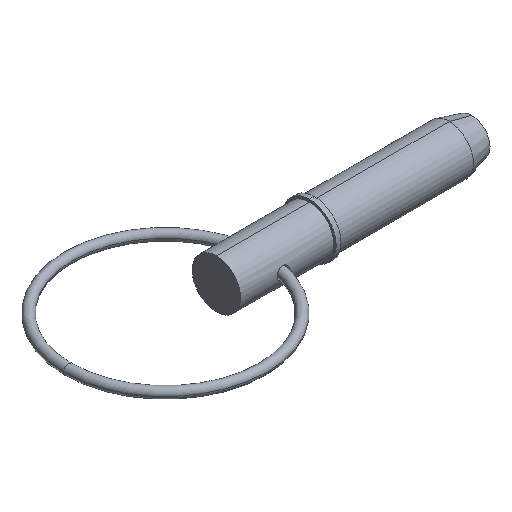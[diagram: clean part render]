
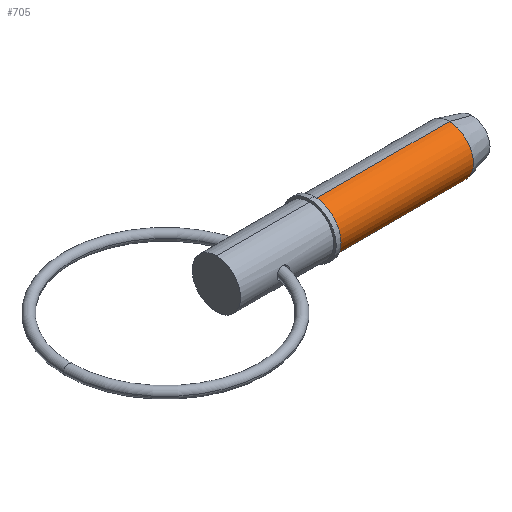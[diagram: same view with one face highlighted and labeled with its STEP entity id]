
A CAD part, isometric view. The second image highlights one B-rep face of the part: STEP entity #705.
In plain terms, the highlighted cylindrical face has radius 6.35 mm (diameter 12.7 mm), a partial arc.
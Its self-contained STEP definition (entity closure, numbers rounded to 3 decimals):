
#12 = DIRECTION ( 'NONE',  ( 1., 0., 0. ) ) ;
#22 = CARTESIAN_POINT ( 'NONE',  ( 25.7, 0., 0. ) ) ;
#59 = EDGE_CURVE ( 'NONE', #148, #458, #886, .T. ) ;
#77 = VERTEX_POINT ( 'NONE', #580 ) ;
#143 = ORIENTED_EDGE ( 'NONE', *, *, #466, .F. ) ;
#148 = VERTEX_POINT ( 'NONE', #925 ) ;
#233 = ORIENTED_EDGE ( 'NONE', *, *, #59, .F. ) ;
#239 = FACE_OUTER_BOUND ( 'NONE', #517, .T. ) ;
#251 = CARTESIAN_POINT ( 'NONE',  ( 61.055, 0., 6.35 ) ) ;
#311 = AXIS2_PLACEMENT_3D ( 'NONE', #22, #742, #912 ) ;
#314 = ORIENTED_EDGE ( 'NONE', *, *, #1003, .T. ) ;
#321 = DIRECTION ( 'NONE',  ( 1., 0., 0. ) ) ;
#326 = VECTOR ( 'NONE', #630, 1000. ) ;
#365 = LINE ( 'NONE', #689, #966 ) ;
#376 = EDGE_CURVE ( 'NONE', #148, #77, #701, .T. ) ;
#397 = CARTESIAN_POINT ( 'NONE',  ( 0., 0., 0. ) ) ;
#411 = AXIS2_PLACEMENT_3D ( 'NONE', #659, #12, #430 ) ;
#416 = DIRECTION ( 'NONE',  ( 0., 0., -1. ) ) ;
#430 = DIRECTION ( 'NONE',  ( 0., 0., -1. ) ) ;
#458 = VERTEX_POINT ( 'NONE', #251 ) ;
#466 = EDGE_CURVE ( 'NONE', #458, #799, #685, .T. ) ;
#501 = CARTESIAN_POINT ( 'NONE',  ( 61.055, 0., -6.35 ) ) ;
#517 = EDGE_LOOP ( 'NONE', ( #233, #716, #314, #143 ) ) ;
#535 = DIRECTION ( 'NONE',  ( 1., 0., 0. ) ) ;
#564 = CYLINDRICAL_SURFACE ( 'NONE', #746, 6.35 ) ;
#580 = CARTESIAN_POINT ( 'NONE',  ( 25.7, 0., -6.35 ) ) ;
#630 = DIRECTION ( 'NONE',  ( 1., 0., 0. ) ) ;
#659 = CARTESIAN_POINT ( 'NONE',  ( 61.055, 0., 0. ) ) ;
#685 = CIRCLE ( 'NONE', #411, 6.35 ) ;
#689 = CARTESIAN_POINT ( 'NONE',  ( 0., 0., -6.35 ) ) ;
#701 = CIRCLE ( 'NONE', #311, 6.35 ) ;
#705 = ADVANCED_FACE ( 'NONE', ( #239 ), #564, .T. ) ;
#716 = ORIENTED_EDGE ( 'NONE', *, *, #376, .T. ) ;
#742 = DIRECTION ( 'NONE',  ( 1., 0., 0. ) ) ;
#746 = AXIS2_PLACEMENT_3D ( 'NONE', #397, #321, #416 ) ;
#799 = VERTEX_POINT ( 'NONE', #501 ) ;
#886 = LINE ( 'NONE', #986, #326 ) ;
#912 = DIRECTION ( 'NONE',  ( 0., 0., -1. ) ) ;
#925 = CARTESIAN_POINT ( 'NONE',  ( 25.7, 0., 6.35 ) ) ;
#966 = VECTOR ( 'NONE', #535, 1000. ) ;
#986 = CARTESIAN_POINT ( 'NONE',  ( 0., 0., 6.35 ) ) ;
#1003 = EDGE_CURVE ( 'NONE', #77, #799, #365, .T. ) ;
